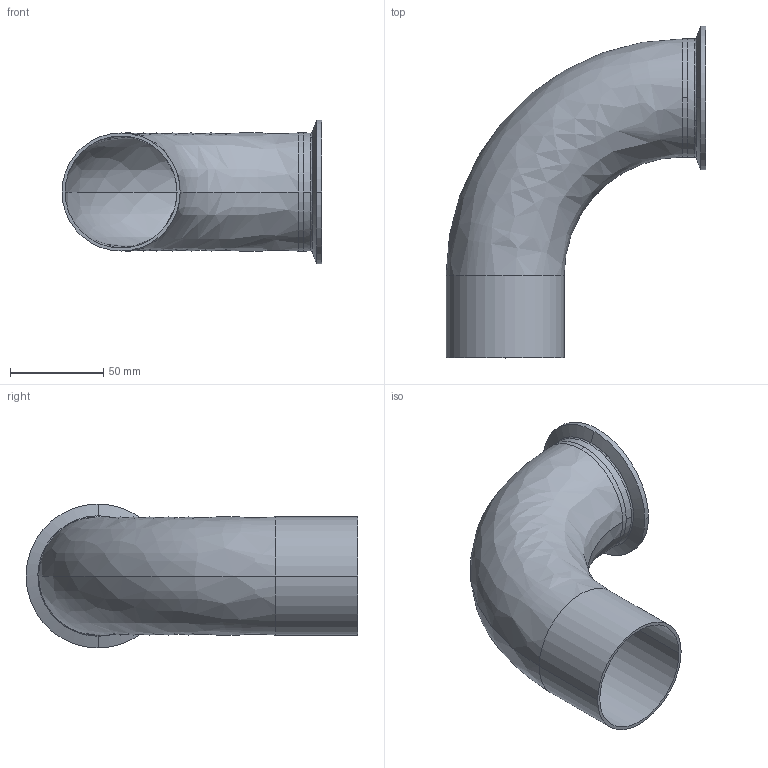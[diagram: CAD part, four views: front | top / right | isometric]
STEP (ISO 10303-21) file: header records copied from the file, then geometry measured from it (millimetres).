
FILE_DESCRIPTION (( 'STEP AP214' ), '1' );
FILE_NAME ('TE2C6L2.5-...STEP', '2016-05-22T09:34:36', ( 'eran' ), ( '' ), 'SwSTEP 2.0', 'SolidWorks 2016', '' );
FILE_SCHEMA (( 'AUTOMOTIVE_DESIGN' ));
Length unit declared in the file: millimetre
Products named in the file (1): TE2C6L2.5-..
Bounding box: 139.75 x 178.4 x 77.39 mm (x, y, z)
Volume: 72282.7 mm3; surface area: 84508.3 mm2
Topology: 2 solids, 2 shells, 39 faces, 98 edges, 64 vertices
Faces by surface type: bspline 14, cylinder 14, cone 6, plane 5
Entity records: 1972 total; most frequent: CARTESIAN_POINT 980, DIRECTION 216, ORIENTED_EDGE 196, EDGE_CURVE 98, AXIS2_PLACEMENT_3D 98, CIRCLE 72, VERTEX_POINT 64, EDGE_LOOP 44
